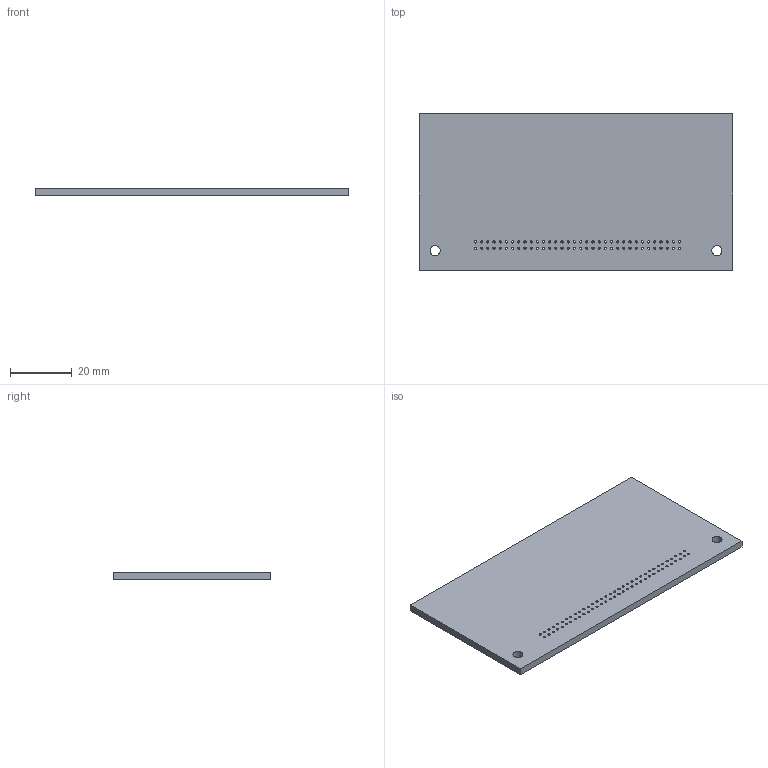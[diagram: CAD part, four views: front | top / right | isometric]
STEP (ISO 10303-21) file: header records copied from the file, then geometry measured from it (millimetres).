
FILE_DESCRIPTION(/* description */ (''),/* implementation_level */ '2;1');
FILE_NAME(/* name */ 'CB26 Daughter v2.step',/* time_stamp */ '2023-11-06T14:29:48-05:00',/* author */ (''),/* organization */ (''),/* preprocessor_version */ 'ST-DEVELOPER v20',/* originating_system */ 'Autodesk Translation Framework v12.14.0.127',/* authorisation */ '');
FILE_SCHEMA (('AUTOMOTIVE_DESIGN { 1 0 10303 214 3 1 1 }'));
Length unit declared in the file: inch
Products named in the file (1): CB26 Daughter
Bounding box: 101.6 x 50.8 x 2.36 mm (x, y, z)
Volume: 12088.9 mm3; surface area: 11362.5 mm2
Topology: 1 solids, 1 shells, 76 faces, 222 edges, 148 vertices
Faces by surface type: cylinder 70, plane 6
Full cylindrical faces by diameter (mm): 0.711 x68, 3.251 x2
Entity records: 2921 total; most frequent: DIRECTION 516, CARTESIAN_POINT 447, ORIENTED_EDGE 444, EDGE_CURVE 222, AXIS2_PLACEMENT_3D 217, EDGE_LOOP 216, VERTEX_POINT 148, FACE_BOUND 140
